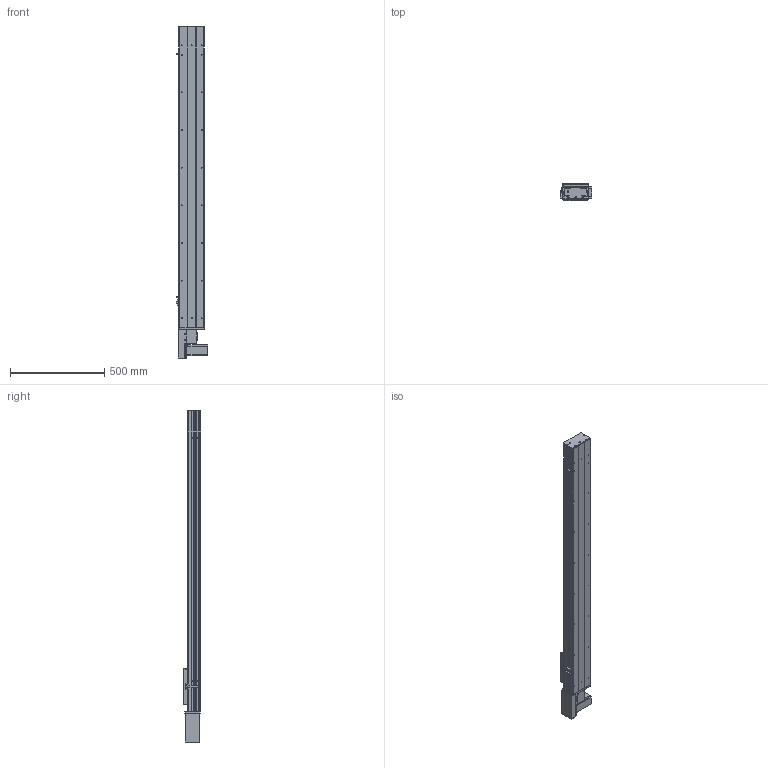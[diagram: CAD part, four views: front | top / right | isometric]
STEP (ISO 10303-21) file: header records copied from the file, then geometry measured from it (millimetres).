
FILE_DESCRIPTION (( 'STEP AP203' ), '1' );
FILE_NAME ('Y135CB-D90-S1300-BR-P400W.STEP', '2020-02-18T02:35:03', ( '微软用户' ), ( '微软中国' ), 'SwSTEP 2.0', 'SolidWorks 2017', '' );
FILE_SCHEMA (( 'CONFIG_CONTROL_DESIGN' ));
Length unit declared in the file: millimetre
Products named in the file (18): Y100-135俋离換覜ん--; Y俋欶BR----; Y135C-陔俋离換覜結え-; 0B-埴倛裔啣; 0B-源倛裔啣; 0B-萇儂楊擘啣; 5C--俋欶; san松下电机400不带刹车----; Y135CB-耜裔; C-雄赽釱--; 5CB --掛极耜裔啣-; 135CB---遴掛极.-; Y10B--々湍喘謫眊--666; C-詩湍揤踡え-陔; 35CB---喘謫眊楊擘啣; Y135CB-D90-S1300-BR-P400W; 135CB--詩湍-CE; Y10B-耜蚾蟀諉啣----
Assembly tree (21 placements, depth 2):
  Y135CB-D90-S1300-BR-P400W
    Y135CB-耜裔
    135CB---遴掛极.-
    35CB---喘謫眊楊擘啣
    Y10B-耜蚾蟀諉啣----
    Y俋欶BR----
    0B-埴倛裔啣
    0B-源倛裔啣
    0B-萇儂楊擘啣
    san松下电机400不带刹车----
    5CB --掛极耜裔啣-  x2
    C-詩湍揤踡え-陔  x2
    135CB--詩湍-CE
    Y100-135俋离換覜ん--  x3
    Y135C-陔俋离換覜結え-
    5C--俋欶
    C-雄赽釱--
    Y10B--々湍喘謫眊--666
Bounding box: 167.5 x 91 x 1764.5 mm (x, y, z)
Volume: 5166261.8 mm3; surface area: 2030134 mm2
Topology: 21 solids, 21 shells, 953 faces, 2563 edges, 1698 vertices
Faces by surface type: cylinder 479, plane 458, cone 16
Entity records: 29745 total; most frequent: DIRECTION 4939, CARTESIAN_POINT 4900, ORIENTED_EDGE 4602, EDGE_CURVE 2301, AXIS2_PLACEMENT_3D 1801, VERTEX_POINT 1526, LINE 1337, VECTOR 1337
